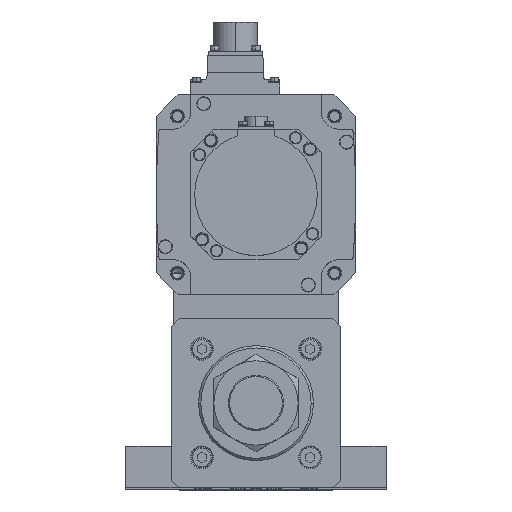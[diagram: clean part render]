
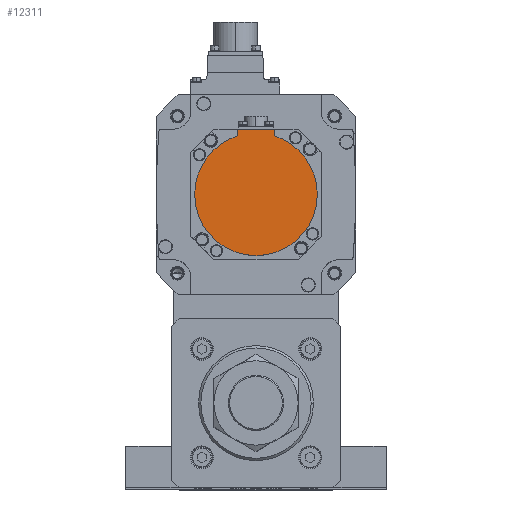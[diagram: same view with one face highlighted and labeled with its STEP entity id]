
A CAD part, top view. The second image highlights one B-rep face of the part: STEP entity #12311.
In plain terms, the highlighted planar face has unit normal (0, 0, 1) as drawn and (0, 0, -1) by its records, which use the part's own axes.
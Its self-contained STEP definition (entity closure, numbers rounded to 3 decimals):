
#175 = EDGE_CURVE ( 'NONE', #12057, #19071, #5558, .T. ) ;
#221 = ORIENTED_EDGE ( 'NONE', *, *, #175, .F. ) ;
#912 = CIRCLE ( 'NONE', #13312, 40. ) ;
#1712 = CARTESIAN_POINT ( 'NONE',  ( -40., 0., -132.5 ) ) ;
#2169 = CARTESIAN_POINT ( 'NONE',  ( 0., 0., -132.5 ) ) ;
#2350 = ORIENTED_EDGE ( 'NONE', *, *, #17266, .T. ) ;
#3842 = LINE ( 'NONE', #20697, #18627 ) ;
#4430 = CARTESIAN_POINT ( 'NONE',  ( 0., 0., -132.5 ) ) ;
#4570 = DIRECTION ( 'NONE',  ( -1., 0., 0. ) ) ;
#5239 = LINE ( 'NONE', #32709, #27538 ) ;
#5558 = CIRCLE ( 'NONE', #19660, 40. ) ;
#5762 = FACE_OUTER_BOUND ( 'NONE', #11966, .T. ) ;
#5790 = ORIENTED_EDGE ( 'NONE', *, *, #6357, .F. ) ;
#6357 = EDGE_CURVE ( 'NONE', #12834, #7213, #5239, .T. ) ;
#6834 = EDGE_CURVE ( 'NONE', #7213, #12057, #15755, .T. ) ;
#6904 = CARTESIAN_POINT ( 'NONE',  ( 0., -1.249, -132.5 ) ) ;
#7213 = VERTEX_POINT ( 'NONE', #20724 ) ;
#8454 = DIRECTION ( 'NONE',  ( 1., 0., 0. ) ) ;
#9397 = CARTESIAN_POINT ( 'NONE',  ( 12., -42.5, -132.5 ) ) ;
#9505 = EDGE_CURVE ( 'NONE', #19071, #17183, #912, .T. ) ;
#10727 = CARTESIAN_POINT ( 'NONE',  ( -12., -42.5, -132.5 ) ) ;
#10943 = DIRECTION ( 'NONE',  ( 0., 0., 1. ) ) ;
#11270 = AXIS2_PLACEMENT_3D ( 'NONE', #21978, #10943, #8454 ) ;
#11966 = EDGE_LOOP ( 'NONE', ( #27324, #28998, #221, #16029, #5790, #2350 ) ) ;
#12057 = VERTEX_POINT ( 'NONE', #32127 ) ;
#12311 = ADVANCED_FACE ( 'NONE', ( #5762 ), #25600, .F. ) ;
#12565 = DIRECTION ( 'NONE',  ( 0., 0., 1. ) ) ;
#12834 = VERTEX_POINT ( 'NONE', #9397 ) ;
#13312 = AXIS2_PLACEMENT_3D ( 'NONE', #4430, #23253, #23006 ) ;
#14431 = VERTEX_POINT ( 'NONE', #10727 ) ;
#15755 = CIRCLE ( 'NONE', #11270, 40. ) ;
#16029 = ORIENTED_EDGE ( 'NONE', *, *, #6834, .F. ) ;
#17183 = VERTEX_POINT ( 'NONE', #28219 ) ;
#17266 = EDGE_CURVE ( 'NONE', #12834, #14431, #3842, .T. ) ;
#17866 = DIRECTION ( 'NONE',  ( 1., 0., 0. ) ) ;
#18627 = VECTOR ( 'NONE', #4570, 1000. ) ;
#19071 = VERTEX_POINT ( 'NONE', #1712 ) ;
#19198 = AXIS2_PLACEMENT_3D ( 'NONE', #6904, #28168, #17866 ) ;
#19660 = AXIS2_PLACEMENT_3D ( 'NONE', #2169, #12565, #34075 ) ;
#20697 = CARTESIAN_POINT ( 'NONE',  ( 0., -42.5, -132.5 ) ) ;
#20724 = CARTESIAN_POINT ( 'NONE',  ( 12., -38.158, -132.5 ) ) ;
#21978 = CARTESIAN_POINT ( 'NONE',  ( 0., 0., -132.5 ) ) ;
#22085 = DIRECTION ( 'NONE',  ( 0., 1., 0. ) ) ;
#23006 = DIRECTION ( 'NONE',  ( 1., 0., 0. ) ) ;
#23253 = DIRECTION ( 'NONE',  ( 0., 0., 1. ) ) ;
#23551 = LINE ( 'NONE', #34923, #30257 ) ;
#25600 = PLANE ( 'NONE',  #19198 ) ;
#25802 = EDGE_CURVE ( 'NONE', #14431, #17183, #23551, .T. ) ;
#27324 = ORIENTED_EDGE ( 'NONE', *, *, #25802, .T. ) ;
#27538 = VECTOR ( 'NONE', #27762, 1000. ) ;
#27762 = DIRECTION ( 'NONE',  ( 0., 1., 0. ) ) ;
#28168 = DIRECTION ( 'NONE',  ( 0., 0., 1. ) ) ;
#28219 = CARTESIAN_POINT ( 'NONE',  ( -12., -38.158, -132.5 ) ) ;
#28998 = ORIENTED_EDGE ( 'NONE', *, *, #9505, .F. ) ;
#30257 = VECTOR ( 'NONE', #22085, 1000. ) ;
#32127 = CARTESIAN_POINT ( 'NONE',  ( 40., 0., -132.5 ) ) ;
#32709 = CARTESIAN_POINT ( 'NONE',  ( 12., -1.249, -132.5 ) ) ;
#34075 = DIRECTION ( 'NONE',  ( 1., 0., 0. ) ) ;
#34923 = CARTESIAN_POINT ( 'NONE',  ( -12., -40.329, -132.5 ) ) ;
